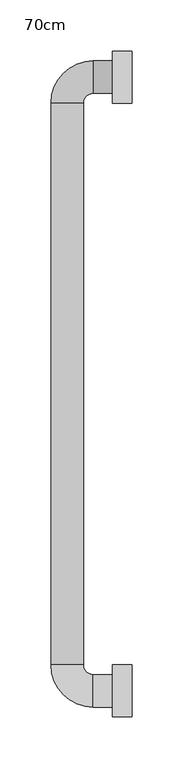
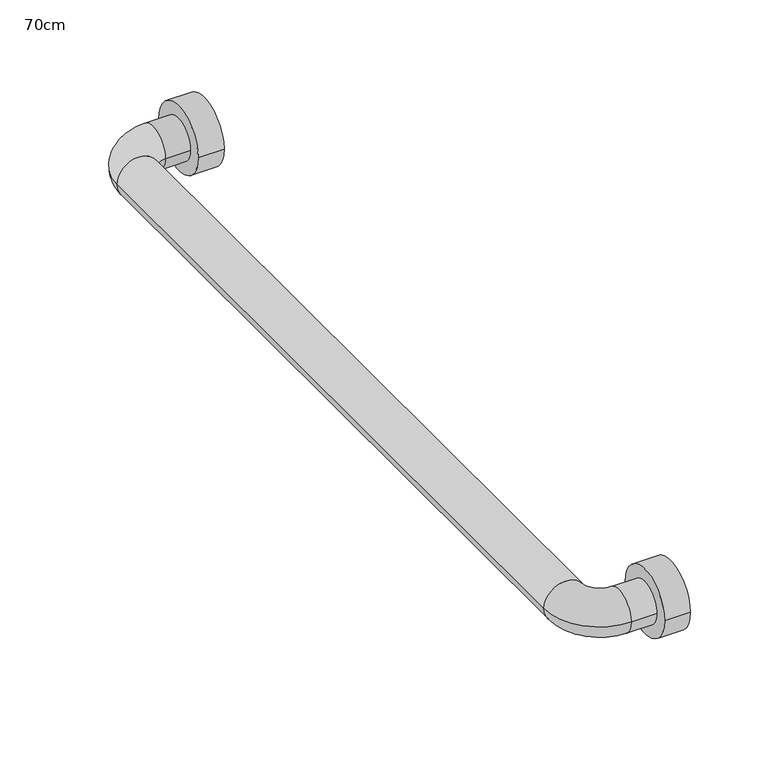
"""IFC4 building model written with IfcOpenShell, lengths in millimetres: proxy geometry, Barre d'appui simple60cm : 70cm."""

import ifcopenshell
import ifcopenshell.guid

model = None  # the IFC model being written
_history = None  # IfcOwnerHistory: only IFC2X3 demands one
_inside = {}  # id of a spatial element -> (the spatial element, [elements in it])
_under = {}  # id of a project, library or spatial element -> (it, [spatial elements below it])
_declared = {}  # id of a project -> (the project, [libraries it declares])
_typed = {}  # id of a type object -> (the type object, [elements of that type])
_made_of = {}  # id of a material, layer set ... -> (it, [elements and type objects made of it])


def new_model(schema):
    """Start an empty IFC model of exactly this schema.

    Asked for "IFC4X3", IfcOpenShell would pick the latest addendum, in which some entities
    have other attributes; the version numbers below select the first issue.
    IFC2X3 requires an IfcOwnerHistory on every rooted entity: one is made here for all.
    """
    global model, _history
    if schema == "IFC4X3":
        model = ifcopenshell.file(schema_version=(4, 3, 0, 0))
    else:
        model = ifcopenshell.file(schema=schema)
    _inside.clear()
    _under.clear()
    _declared.clear()
    _typed.clear()
    _made_of.clear()
    _history = None
    if model.schema == "IFC2X3":
        org = make("IfcOrganization", Name="unknown")
        user = make(
            "IfcPersonAndOrganization",
            ThePerson=make("IfcPerson", FamilyName="unknown"),
            TheOrganization=org,
        )
        app = make(
            "IfcApplication",
            ApplicationDeveloper=org,
            Version="unknown",
            ApplicationFullName="unknown",
            ApplicationIdentifier="unknown",
        )
        _history = make(
            "IfcOwnerHistory",
            OwningUser=user,
            OwningApplication=app,
            ChangeAction="ADDED",
            CreationDate=0,
        )
    return model


def make(cls, **values):
    """One entity of the class cls with the attributes given. An attribute that is None is left unset."""
    return model.create_entity(
        cls, **{name: value for name, value in values.items() if value is not None}
    )


def rooted(cls, **values):
    """An entity with a GlobalId (a new one), such as an element, a storey or a relation."""
    return make(cls, GlobalId=ifcopenshell.guid.new(), OwnerHistory=_history, **values)


def si_unit(unit_type, name, prefix=None):
    """IfcSIUnit, for example si_unit("LENGTHUNIT", "METRE", prefix="MILLI")."""
    return make("IfcSIUnit", UnitType=unit_type, Prefix=prefix, Name=name)


def assignment(units):
    """IfcUnitAssignment: the units of a project."""
    return None if units is None else make("IfcUnitAssignment", Units=units)


def point(xyz):
    """IfcCartesianPoint."""
    return None if xyz is None else make("IfcCartesianPoint", Coordinates=xyz)


def direction(xyz):
    """IfcDirection."""
    return None if xyz is None else make("IfcDirection", DirectionRatios=xyz)


def frame(location, z_axis=None, x_axis=None):
    """IfcAxis2Placement3D, a coordinate frame: its origin and axes. An axis left out is left unset."""
    return make(
        "IfcAxis2Placement3D",
        Location=point(location),
        Axis=direction(z_axis),
        RefDirection=direction(x_axis),
    )


def frame_2d(location, x_axis=None):
    """IfcAxis2Placement2D, a coordinate frame in the plane: its origin and x axis."""
    return make(
        "IfcAxis2Placement2D", Location=point(location), RefDirection=direction(x_axis)
    )


def origin():
    """The frame at (0, 0, 0) with its axes left unset."""
    return frame((0.0, 0.0, 0.0))


def place(relative_to, where):
    """IfcLocalPlacement: puts the frame where relative to a parent placement (None: the world)."""
    return make(
        "IfcLocalPlacement", PlacementRelTo=relative_to, RelativePlacement=where
    )


def context(
    kind, dimensions, precision=None, world=None, true_north=None, identifier=None
):
    """IfcGeometricRepresentationContext, for example the 3D "Model" context."""
    return make(
        "IfcGeometricRepresentationContext",
        ContextIdentifier=identifier,
        ContextType=kind,
        CoordinateSpaceDimension=dimensions,
        Precision=precision,
        WorldCoordinateSystem=world,
        TrueNorth=true_north,
    )


def project(units=None, contexts=None):
    """IfcProject with its units and contexts."""
    return rooted(
        "IfcProject",
        Name="project",
        RepresentationContexts=contexts,
        UnitsInContext=assignment(units),
    )


def spatial(cls, under=None, at=None, **own):
    """A site, building, storey or space (cls), placed at a placement, below another one or the project."""
    s = rooted(cls, ObjectPlacement=at, **own)
    if under is not None:
        _under.setdefault(under.id(), (under, []))[1].append(s)
    return s


def circle_curve(where, radius):
    """IfcCircle in the frame where."""
    return make("IfcCircle", Position=where, Radius=radius)


def ellipse_curve(where, semi_axis1, semi_axis2):
    """IfcEllipse in the frame where."""
    return make(
        "IfcEllipse", Position=where, SemiAxis1=semi_axis1, SemiAxis2=semi_axis2
    )


def trimmed(basis, trim1, trim2, sense, master):
    """IfcTrimmedCurve: the piece of a basis curve between two trims."""
    return make(
        "IfcTrimmedCurve",
        BasisCurve=basis,
        Trim1=trim1,
        Trim2=trim2,
        SenseAgreement=sense,
        MasterRepresentation=master,
    )


def segment(curve, same_sense, transition):
    """IfcCompositeCurveSegment."""
    return make(
        "IfcCompositeCurveSegment",
        Transition=transition,
        SameSense=same_sense,
        ParentCurve=curve,
    )


def composite_curve(segments, self_intersect=None):
    """IfcCompositeCurve: segments joined end to end."""
    return make("IfcCompositeCurve", Segments=segments, SelfIntersect=self_intersect)


def outline(outer, holes=None, kind="AREA"):
    """IfcArbitraryClosedProfileDef: a profile drawn as a closed curve; with holes, ...WithVoids."""
    if holes is None:
        return make("IfcArbitraryClosedProfileDef", ProfileType=kind, OuterCurve=outer)
    return make(
        "IfcArbitraryProfileDefWithVoids",
        ProfileType=kind,
        OuterCurve=outer,
        InnerCurves=holes,
    )


def extrude(swept, where, along, depth):
    """IfcExtrudedAreaSolid: the profile swept, set in the frame where, extruded along a direction by depth."""
    return make(
        "IfcExtrudedAreaSolid",
        SweptArea=swept,
        Position=where,
        ExtrudedDirection=direction(along),
        Depth=depth,
    )


def shape(context_of_items, identifier, shape_type, items):
    """IfcShapeRepresentation: the items that make up one representation, for example the "Body"."""
    return make(
        "IfcShapeRepresentation",
        ContextOfItems=context_of_items,
        RepresentationIdentifier=identifier,
        RepresentationType=shape_type,
        Items=items,
    )


def source(mapping_origin, context_of_items, identifier, shape_type, items):
    """IfcRepresentationMap: a shape defined once, which mapped items show again and again."""
    return make(
        "IfcRepresentationMap",
        MappingOrigin=mapping_origin,
        MappedRepresentation=shape(context_of_items, identifier, shape_type, items),
    )


def transform(
    local_origin,
    x_axis=None,
    y_axis=None,
    z_axis=None,
    scale=None,
    scale2=None,
    scale3=None,
    uniform=True,
):
    """IfcCartesianTransformationOperator3D, or its non-uniform kind. x_axis, y_axis, z_axis: its Axis1, 2, 3."""
    if uniform:
        return make(
            "IfcCartesianTransformationOperator3D",
            Axis1=direction(x_axis),
            Axis2=direction(y_axis),
            LocalOrigin=point(local_origin),
            Scale=scale,
            Axis3=direction(z_axis),
        )
    return make(
        "IfcCartesianTransformationOperator3DnonUniform",
        Axis1=direction(x_axis),
        Axis2=direction(y_axis),
        LocalOrigin=point(local_origin),
        Scale=scale,
        Axis3=direction(z_axis),
        Scale2=scale2,
        Scale3=scale3,
    )


def mapped(mapping_source, mapping_target):
    """IfcMappedItem: shows the shape of a source again, moved by a transform."""
    return make(
        "IfcMappedItem", MappingSource=mapping_source, MappingTarget=mapping_target
    )


def made_of(thing, what):
    """Note that an element or type object is made of a material, layer set ...; save() writes the relation."""
    if what is not None:
        _made_of.setdefault(what.id(), (what, []))[1].append(thing)
    return thing


def element(
    cls,
    number,
    at=None,
    inside=None,
    cuts=None,
    type_object=None,
    material=None,
    context=None,
    identifier="Body",
    shape_type=None,
    held_by="IfcProductDefinitionShape",
    body=None,
    shapes=None,
    **own,
):
    """One element of the class cls, such as IfcWall. Its Tag is "e" and its number.

    at: its placement. inside: the storey or other place that contains it. cuts: it is an
    opening in that element (IfcRelVoidsElement). A single representation is given by context,
    identifier, shape_type and body (its items); several are given by shapes. held_by: the class
    of the entity that holds the representations. save() writes the other relations.
    """
    e = rooted(cls, Tag="e%d" % number, ObjectPlacement=at, **own)
    if body is not None:
        shapes = [shape(context, identifier, shape_type, body)]
    if shapes is not None:
        e.Representation = make(held_by, Representations=shapes)
    if inside is not None:
        _inside.setdefault(inside.id(), (inside, []))[1].append(e)
    if cuts is not None:
        rooted(
            "IfcRelVoidsElement", RelatingBuildingElement=cuts, RelatedOpeningElement=e
        )
    if type_object is not None:
        _typed.setdefault(type_object.id(), (type_object, []))[1].append(e)
    return made_of(e, material)


def aggregate(whole, parts):
    """IfcRelAggregates: a whole, such as a stair, and the parts it consists of."""
    return rooted("IfcRelAggregates", RelatingObject=whole, RelatedObjects=parts)


def save(model, path):
    """Write the relations noted so far, then the file.

    IfcRelAggregates (storeys below a building ...), IfcRelContainedInSpatialStructure (elements
    in a storey), IfcRelDefinesByType, IfcRelAssociatesMaterial and IfcRelDeclares: one each for
    every whole, place, type object, material and project.
    """
    for whole, parts in _under.values():
        aggregate(whole, parts)
    for where, things in _inside.values():
        rooted(
            "IfcRelContainedInSpatialStructure",
            RelatedElements=things,
            RelatingStructure=where,
        )
    for kind, things in _typed.values():
        rooted("IfcRelDefinesByType", RelatedObjects=things, RelatingType=kind)
    for what, things in _made_of.values():
        rooted("IfcRelAssociatesMaterial", RelatedObjects=things, RelatingMaterial=what)
    for by, libraries in _declared.values():
        rooted("IfcRelDeclares", RelatingContext=by, RelatedDefinitions=libraries)
    model.write(path)


def plane_surface(at):
    """IfcPlane: the flat surface through the origin of the frame at, square to its z axis."""
    return make("IfcPlane", Position=at)


def cylinder_surface(at, radius):
    """IfcCylindricalSurface: all points at the distance radius from the z axis of the frame at."""
    return make("IfcCylindricalSurface", Position=at, Radius=radius)


def revolved_surface(curve, axis_point, axis_direction):
    """IfcSurfaceOfRevolution: the curve turned about the line through axis_point along axis_direction."""
    return make(
        "IfcSurfaceOfRevolution",
        SweptCurve=make("IfcArbitraryOpenProfileDef", ProfileType="CURVE", Curve=curve),
        AxisPosition=make("IfcAxis1Placement", Location=point(axis_point), Axis=direction(axis_direction)),
    )


def advanced_brep(points, edges, surfaces, faces):
    """IfcAdvancedBrep: a solid bounded by faces that lie on surfaces and meet in shared edges.

    An edge is (start, end): straight between two places in points (the first is 0);
    or (start, end, curve); or (start, end, curve, False) where it runs against its curve.
    A face is (place in surfaces, loops), or (place, loops, False) where it looks against
    its surface's normal. A loop lists edges by number (the first is 1), with a minus sign
    where the edge is run from its end to its start. The first loop is the outer one.
    """
    corners = [point(p) for p in points]
    vertices = [make("IfcVertexPoint", VertexGeometry=c) for c in corners]
    made = []
    for start, end, *more in edges:
        made.append(
            make(
                "IfcEdgeCurve",
                EdgeStart=vertices[start],
                EdgeEnd=vertices[end],
                EdgeGeometry=more[0] if more else make("IfcPolyline", Points=[corners[start], corners[end]]),
                SameSense=more[1] if len(more) > 1 else True,
            )
        )
    hull = []
    for where, loops, *sense in faces:
        bounds = []
        for j, loop in enumerate(loops):
            ring = [make("IfcOrientedEdge", EdgeElement=made[abs(k) - 1], Orientation=k > 0) for k in loop]
            bounds.append(
                make(
                    "IfcFaceOuterBound" if j == 0 else "IfcFaceBound",
                    Bound=make("IfcEdgeLoop", EdgeList=ring),
                    Orientation=True,
                )
            )
        hull.append(make("IfcAdvancedFace", Bounds=bounds, FaceSurface=surfaces[where], SameSense=sense[0] if sense else True))
    return make("IfcAdvancedBrep", Outer=make("IfcClosedShell", CfsFaces=hull))


def proxy_70cm_3e6a8b74(model_context):
    return source(origin(), model_context, "Body", "SolidModel", [
        extrude(outline(composite_curve([segment(trimmed(circle_curve(frame_2d((304.8, 900.0)), 25.4), [point((279.4, 900.0))], [point((330.2, 900.0))], False, "CARTESIAN"), True, "CONTINUOUS"), segment(trimmed(circle_curve(frame_2d((304.8, 900.0)), 25.4), [point((330.2, 900.0))], [point((279.4, 900.0))], False, "CARTESIAN"), True, "CONTINUOUS")], self_intersect=False)), frame((-19.05, 0.0, 0.0), z_axis=(1.0, 0.0, 0.0), x_axis=(0.0, 1.0, 0.0)), (0.0, 0.0, 1.0), 19.05),
        extrude(outline(composite_curve([segment(trimmed(circle_curve(frame_2d((904.8, 900.0)), 25.4), [point((879.4, 900.0))], [point((930.2, 900.0))], False, "CARTESIAN"), True, "CONTINUOUS"), segment(trimmed(circle_curve(frame_2d((904.8, 900.0)), 25.4), [point((930.2, 900.0))], [point((879.4, 900.0))], False, "CARTESIAN"), True, "CONTINUOUS")], self_intersect=False)), frame((-19.05, 0.0, 0.0), z_axis=(1.0, 0.0, 0.0), x_axis=(0.0, 1.0, 0.0)), (0.0, 0.0, 1.0), 19.05),
        advanced_brep(
        [(-19.05, 320.675, 900.0), (-19.05, 288.925, 900.0), (-38.1, 320.675, 900.0), (-38.1, 288.925, 900.0), (-79.375, 330.2, 900.0), (-47.625, 330.2, 900.0), (-47.625, 879.4, 900.0), (-79.375, 879.4, 900.0), (-38.1, 920.675, 900.0), (-38.1, 888.925, 900.0), (-19.05, 888.925, 900.0), (-19.05, 920.675, 900.0)],
        [
            (0, 1, circle_curve(frame((-19.05, 304.8, 900.0), z_axis=(1.0, 0.0, 0.0), x_axis=(0.0, -1.0, 0.0)), 15.875)),
            (1, 0, circle_curve(frame((-19.05, 304.8, 900.0), z_axis=(1.0, 0.0, 0.0), x_axis=(0.0, -1.0, 0.0)), 15.875)),
            (0, 2),
            (2, 3, circle_curve(frame((-38.1, 304.8, 900.0), z_axis=(1.0, 0.0, 0.0), x_axis=(0.0, -1.0, 0.0)), 15.875)),
            (3, 1),
            (3, 2, circle_curve(frame((-38.1, 304.8, 900.0), z_axis=(1.0, 0.0, 0.0), x_axis=(0.0, -1.0, 0.0)), 15.875)),
            (4, 3, circle_curve(frame((-38.1, 330.2, 900.0), z_axis=(0.0, 0.0, 1.0), x_axis=(0.0, -1.0, 0.0)), 41.275)),
            (2, 5, circle_curve(frame((-38.1, 330.2, 900.0), z_axis=(0.0, 0.0, -1.0), x_axis=(0.0, -1.0, 0.0)), 9.525)),
            (5, 4, circle_curve(frame((-63.5, 330.2, 900.0), z_axis=(0.0, -1.0, 0.0), x_axis=(-1.0, 0.0, 0.0)), 15.875)),
            (4, 5, circle_curve(frame((-63.5, 330.2, 900.0), z_axis=(0.0, -1.0, 0.0), x_axis=(-1.0, 0.0, 0.0)), 15.875)),
            (5, 6),
            (6, 7, circle_curve(frame((-63.5, 879.4, 900.0), z_axis=(0.0, -1.0, 0.0), x_axis=(-1.0, 0.0, 0.0)), 15.875)),
            (7, 4),
            (7, 6, circle_curve(frame((-63.5, 879.4, 900.0), z_axis=(0.0, -1.0, 0.0), x_axis=(-1.0, 0.0, 0.0)), 15.875)),
            (8, 7, circle_curve(frame((-38.1, 879.4, 900.0), z_axis=(0.0, 0.0, 1.0), x_axis=(-1.0, 0.0, 0.0)), 41.275)),
            (6, 9, circle_curve(frame((-38.1, 879.4, 900.0), z_axis=(0.0, 0.0, -1.0), x_axis=(-1.0, 0.0, 0.0)), 9.525)),
            (9, 8, circle_curve(frame((-38.1, 904.8, 900.0), z_axis=(-1.0, 0.0, 0.0), x_axis=(0.0, 1.0, 0.0)), 15.875)),
            (8, 9, circle_curve(frame((-38.1, 904.8, 900.0), z_axis=(-1.0, 0.0, 0.0), x_axis=(0.0, 1.0, 0.0)), 15.875)),
            (10, 11, circle_curve(frame((-19.05, 904.8, 900.0), z_axis=(1.0, 0.0, 0.0), x_axis=(0.0, 1.0, 0.0)), 15.875)),
            (11, 10, circle_curve(frame((-19.05, 904.8, 900.0), z_axis=(1.0, 0.0, 0.0), x_axis=(0.0, 1.0, 0.0)), 15.875)),
            (9, 10),
            (11, 8),
        ],
        [
            plane_surface(frame((-19.05, 304.8, -915.875), z_axis=(1.0, 0.0, 0.0), x_axis=(0.0, -1.0, 0.0))),
            cylinder_surface(frame((-19.05, 304.8, 900.0), z_axis=(1.0, 0.0, 0.0), x_axis=(0.0, -1.0, 0.0)), 15.875),
            revolved_surface(trimmed(ellipse_curve(frame((-38.1, 304.8, 900.0), z_axis=(1.0, 0.0, 0.0), x_axis=(0.0, -1.0, 0.0)), 15.875, 15.875), [point((-38.1, 320.675, 900.0))], [point((-38.1, 288.925, 900.0))], True, "CARTESIAN"), (-38.1, 330.2, 0.0), (0.0, 0.0, -1.0)),
            revolved_surface(trimmed(ellipse_curve(frame((-38.1, 304.8, 900.0), z_axis=(1.0, 0.0, 0.0), x_axis=(0.0, -1.0, 0.0)), 15.875, 15.875), [point((-38.1, 288.925, 900.0))], [point((-38.1, 320.675, 900.0))], True, "CARTESIAN"), (-38.1, 330.2, 0.0), (0.0, 0.0, -1.0)),
            cylinder_surface(frame((-63.5, 330.2, 900.0), z_axis=(0.0, -1.0, 0.0), x_axis=(-1.0, 0.0, 0.0)), 15.875),
            revolved_surface(trimmed(ellipse_curve(frame((-63.5, 879.4, 900.0), z_axis=(0.0, -1.0, 0.0), x_axis=(-1.0, 0.0, 0.0)), 15.875, 15.875), [point((-47.625, 879.4, 900.0))], [point((-79.375, 879.4, 900.0))], True, "CARTESIAN"), (-38.1, 879.4, 0.0), (0.0, 0.0, -1.0)),
            revolved_surface(trimmed(ellipse_curve(frame((-63.5, 879.4, 900.0), z_axis=(0.0, -1.0, 0.0), x_axis=(-1.0, 0.0, 0.0)), 15.875, 15.875), [point((-79.375, 879.4, 900.0))], [point((-47.625, 879.4, 900.0))], True, "CARTESIAN"), (-38.1, 879.4, 0.0), (0.0, 0.0, -1.0)),
            plane_surface(frame((-19.05, 904.8, -915.875), z_axis=(1.0, 0.0, 0.0), x_axis=(0.0, 1.0, 0.0))),
            cylinder_surface(frame((-38.1, 904.8, 900.0), z_axis=(-1.0, 0.0, 0.0), x_axis=(0.0, 1.0, 0.0)), 15.875),
        ],
        [
            (0, [[1, 2]]),
            (1, [[-1, 3, 4, 5]]),
            (1, [[-2, -5, 6, -3]]),
            (2, [[7, -4, 8, 9]]),
            (3, [[-8, -6, -7, 10]]),
            (4, [[-9, 11, 12, 13]]),
            (4, [[-10, -13, 14, -11]]),
            (5, [[15, -12, 16, 17]]),
            (6, [[-16, -14, -15, 18]]),
            (7, [[19, 20]]),
            (8, [[-17, 21, -20, 22]]),
            (8, [[-18, -22, -19, -21]]),
        ],
    ),
    ])


if __name__ == "__main__":
    model = new_model("IFC4")
    model_context = context("Model", 3, world=origin())
    ifc_project = project(units=[si_unit("LENGTHUNIT", "METRE", prefix="MILLI")], contexts=[model_context])
    site = spatial("IfcSite", under=ifc_project)
    building = spatial("IfcBuilding", under=site)
    placement = place(None, origin())
    proxy_70cm_shape = proxy_70cm_3e6a8b74(model_context)
    element("IfcBuildingElementProxy", 1, Name="Barre d'appui simple60cm : 70cm", ObjectType="Barre d'appui simple60cm : 70cm", at=placement, inside=building, context=model_context, shape_type="MappedRepresentation", body=[
        mapped(proxy_70cm_shape, transform((0.0, 0.0, 0.0), x_axis=(1.0, 0.0, 0.0), y_axis=(0.0, 1.0, 0.0), z_axis=(0.0, 0.0, 1.0))),
    ])
    save(model, "model.ifc")
